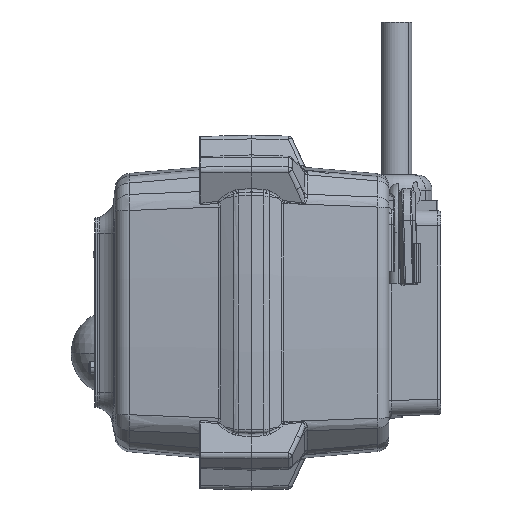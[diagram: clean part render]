
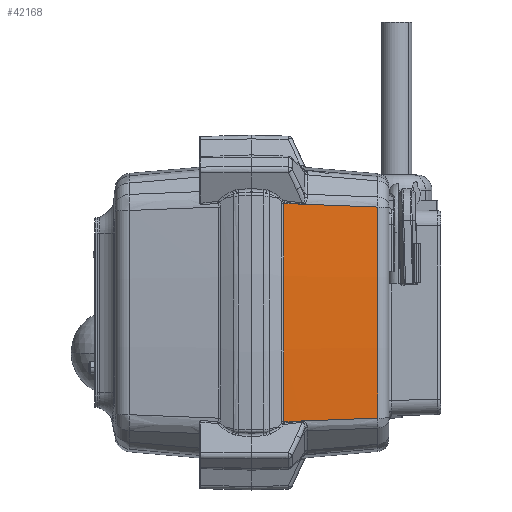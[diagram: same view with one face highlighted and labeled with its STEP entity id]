
A CAD part, left-side view. The second image highlights one B-rep face of the part: STEP entity #42168.
In plain terms, the highlighted conical face has half-angle 5 degrees and reference radius 722.5 mm.
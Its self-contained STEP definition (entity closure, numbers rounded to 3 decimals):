
#1148 = CARTESIAN_POINT ( 'NONE',  ( -62.691, -16.424, 35.453 ) ) ;
#1795 = ORIENTED_EDGE ( 'NONE', *, *, #79587, .T. ) ;
#3702 = CARTESIAN_POINT ( 'NONE',  ( -63.188, -10.631, 35.674 ) ) ;
#4025 = ORIENTED_EDGE ( 'NONE', *, *, #15791, .T. ) ;
#5742 = CARTESIAN_POINT ( 'NONE',  ( -62.691, -16.424, 35.453 ) ) ;
#5743 = CARTESIAN_POINT ( 'NONE',  ( -62.462, -19.095, -35.35 ) ) ;
#6007 = CARTESIAN_POINT ( 'NONE',  ( -62.658, -16.812, 35.438 ) ) ;
#6378 = DIRECTION ( 'NONE',  ( 0., -1., 0. ) ) ;
#7269 = CARTESIAN_POINT ( 'NONE',  ( -62.683, -16.523, 35.44 ) ) ;
#7319 = ORIENTED_EDGE ( 'NONE', *, *, #55672, .T. ) ;
#7385 = B_SPLINE_CURVE_WITH_KNOTS ( 'NONE', 3,
 ( #20020, #12725, #5743, #56842, #13029, #64201, #20341 ),
 .UNSPECIFIED., .F., .F.,
 ( 4, 3, 4 ),
 ( 0.007, 0.01, 0.031 ),
 .UNSPECIFIED. ) ;
#8156 = AXIS2_PLACEMENT_3D ( 'NONE', #14431, #21748, #58256 ) ;
#10373 = CIRCLE ( 'NONE', #48332, 718.882 ) ;
#12585 = CARTESIAN_POINT ( 'NONE',  ( -62.675, -16.619, -35.428 ) ) ;
#12725 = CARTESIAN_POINT ( 'NONE',  ( -62.56, -17.953, -35.394 ) ) ;
#13029 = CARTESIAN_POINT ( 'NONE',  ( -61.761, -27.273, -35.038 ) ) ;
#14431 = CARTESIAN_POINT ( 'NONE',  ( 657.5, 0., 0. ) ) ;
#15056 = CARTESIAN_POINT ( 'NONE',  ( -63.188, -10.631, -35.674 ) ) ;
#15791 = EDGE_CURVE ( 'NONE', #34181, #50122, #54063, .T. ) ;
#16857 = CARTESIAN_POINT ( 'NONE',  ( -62.683, -16.523, 35.44 ) ) ;
#17831 = VERTEX_POINT ( 'NONE', #47755 ) ;
#18381 = CARTESIAN_POINT ( 'NONE',  ( 657.5, -41.349, 0. ) ) ;
#19873 = CARTESIAN_POINT ( 'NONE',  ( -62.658, -16.812, -35.438 ) ) ;
#20020 = CARTESIAN_POINT ( 'NONE',  ( -62.658, -16.812, -35.438 ) ) ;
#20341 = CARTESIAN_POINT ( 'NONE',  ( -60.554, -41.349, -34.5 ) ) ;
#21748 = DIRECTION ( 'NONE',  ( 0., 1., 0. ) ) ;
#22345 = VERTEX_POINT ( 'NONE', #5742 ) ;
#24945 = CARTESIAN_POINT ( 'NONE',  ( -63.188, -10.631, 35.674 ) ) ;
#25080 = ORIENTED_EDGE ( 'NONE', *, *, #92672, .T. ) ;
#25717 = DIRECTION ( 'NONE',  ( 0., 0., -1. ) ) ;
#26339 = VERTEX_POINT ( 'NONE', #84894 ) ;
#26831 = B_SPLINE_CURVE_WITH_KNOTS ( 'NONE', 3,
 ( #76978, #84314, #40441, #91717 ),
 .UNSPECIFIED., .F., .F.,
 ( 4, 4 ),
 ( 0., 0.006 ),
 .UNSPECIFIED. ) ;
#28785 = EDGE_CURVE ( 'NONE', #22345, #80881, #47231, .T. ) ;
#30133 = CARTESIAN_POINT ( 'NONE',  ( -62.686, -16.49, 35.444 ) ) ;
#31423 = CARTESIAN_POINT ( 'NONE',  ( -62.688, -16.457, -35.448 ) ) ;
#32739 = EDGE_LOOP ( 'NONE', ( #7319, #25080, #48401, #43103, #67257, #68811, #1795, #66457, #85625, #4025 ) ) ;
#34181 = VERTEX_POINT ( 'NONE', #46790 ) ;
#36900 = CONICAL_SURFACE ( 'NONE', #8156, 722.5, 0.087 ) ;
#38480 = VERTEX_POINT ( 'NONE', #15056 ) ;
#40441 = CARTESIAN_POINT ( 'NONE',  ( -62.857, -14.493, -35.526 ) ) ;
#41841 = EDGE_CURVE ( 'NONE', #45499, #34181, #77626, .T. ) ;
#42168 = ADVANCED_FACE ( 'NONE', ( #78212 ), #36900, .T. ) ;
#42334 = CARTESIAN_POINT ( 'NONE',  ( -61.095, -35.044, 34.741 ) ) ;
#43103 = ORIENTED_EDGE ( 'NONE', *, *, #83491, .T. ) ;
#43602 = CARTESIAN_POINT ( 'NONE',  ( -62.658, -16.812, 35.438 ) ) ;
#44825 = CARTESIAN_POINT ( 'NONE',  ( -62.688, -16.457, 35.448 ) ) ;
#45499 = VERTEX_POINT ( 'NONE', #56427 ) ;
#45776 = B_SPLINE_CURVE_WITH_KNOTS ( 'NONE', 3,
 ( #43602, #58066, #50998, #7269 ),
 .UNSPECIFIED., .F., .F.,
 ( 4, 4 ),
 ( 0., 0. ),
 .UNSPECIFIED. ) ;
#46127 = CARTESIAN_POINT ( 'NONE',  ( -62.683, -16.522, -35.44 ) ) ;
#46790 = CARTESIAN_POINT ( 'NONE',  ( -62.683, -16.522, -35.44 ) ) ;
#47231 = B_SPLINE_CURVE_WITH_KNOTS ( 'NONE', 3,
 ( #90600, #83215, #68778, #24945 ),
 .UNSPECIFIED., .F., .F.,
 ( 4, 4 ),
 ( 0.029, 0.035 ),
 .UNSPECIFIED. ) ;
#47755 = CARTESIAN_POINT ( 'NONE',  ( -60.554, -41.349, 34.5 ) ) ;
#48332 = AXIS2_PLACEMENT_3D ( 'NONE', #18381, #69550, #25717 ) ;
#48401 = ORIENTED_EDGE ( 'NONE', *, *, #72390, .T. ) ;
#49643 = AXIS2_PLACEMENT_3D ( 'NONE', #50096, #6378, #57459 ) ;
#49714 = CARTESIAN_POINT ( 'NONE',  ( -62.137, -22.889, 35.205 ) ) ;
#50096 = CARTESIAN_POINT ( 'NONE',  ( 657.5, -10.631, 0. ) ) ;
#50122 = VERTEX_POINT ( 'NONE', #82808 ) ;
#50998 = CARTESIAN_POINT ( 'NONE',  ( -62.675, -16.619, 35.428 ) ) ;
#52782 = EDGE_CURVE ( 'NONE', #38480, #45499, #26831, .T. ) ;
#54063 = B_SPLINE_CURVE_WITH_KNOTS ( 'NONE', 3,
 ( #70784, #12585, #63725, #19873 ),
 .UNSPECIFIED., .F., .F.,
 ( 4, 4 ),
 ( 0., 0. ),
 .UNSPECIFIED. ) ;
#55479 = B_SPLINE_CURVE_WITH_KNOTS ( 'NONE', 3,
 ( #16857, #30133, #44825, #1148 ),
 .UNSPECIFIED., .F., .F.,
 ( 4, 4 ),
 ( 0., 0. ),
 .UNSPECIFIED. ) ;
#55672 = EDGE_CURVE ( 'NONE', #50122, #62088, #7385, .T. ) ;
#56350 = CARTESIAN_POINT ( 'NONE',  ( -60.554, -41.349, -34.5 ) ) ;
#56427 = CARTESIAN_POINT ( 'NONE',  ( -62.691, -16.424, -35.453 ) ) ;
#56779 = CARTESIAN_POINT ( 'NONE',  ( -60.554, -41.349, 34.5 ) ) ;
#56842 = CARTESIAN_POINT ( 'NONE',  ( -62.364, -20.236, -35.307 ) ) ;
#57459 = DIRECTION ( 'NONE',  ( 0., 0., -1. ) ) ;
#58066 = CARTESIAN_POINT ( 'NONE',  ( -62.667, -16.716, 35.426 ) ) ;
#58256 = DIRECTION ( 'NONE',  ( 0., 0., 1. ) ) ;
#62088 = VERTEX_POINT ( 'NONE', #56350 ) ;
#63725 = CARTESIAN_POINT ( 'NONE',  ( -62.667, -16.715, -35.426 ) ) ;
#64094 = B_SPLINE_CURVE_WITH_KNOTS ( 'NONE', 3,
 ( #56779, #64141, #86211, #42334, #93612, #49714, #6007 ),
 .UNSPECIFIED., .F., .F.,
 ( 4, 3, 4 ),
 ( 0.004, 0.01, 0.028 ),
 .UNSPECIFIED. ) ;
#64141 = CARTESIAN_POINT ( 'NONE',  ( -60.734, -39.247, 34.58 ) ) ;
#64201 = CARTESIAN_POINT ( 'NONE',  ( -61.158, -34.311, -34.769 ) ) ;
#66457 = ORIENTED_EDGE ( 'NONE', *, *, #52782, .T. ) ;
#67257 = ORIENTED_EDGE ( 'NONE', *, *, #76871, .T. ) ;
#67339 = CIRCLE ( 'NONE', #49643, 721.57 ) ;
#68778 = CARTESIAN_POINT ( 'NONE',  ( -63.022, -12.562, 35.6 ) ) ;
#68811 = ORIENTED_EDGE ( 'NONE', *, *, #28785, .T. ) ;
#69550 = DIRECTION ( 'NONE',  ( 0., 1., 0. ) ) ;
#70784 = CARTESIAN_POINT ( 'NONE',  ( -62.683, -16.522, -35.44 ) ) ;
#72301 = CARTESIAN_POINT ( 'NONE',  ( -62.683, -16.523, 35.44 ) ) ;
#72390 = EDGE_CURVE ( 'NONE', #17831, #26339, #64094, .T. ) ;
#76871 = EDGE_CURVE ( 'NONE', #80269, #22345, #55479, .T. ) ;
#76978 = CARTESIAN_POINT ( 'NONE',  ( -63.188, -10.631, -35.674 ) ) ;
#77626 = B_SPLINE_CURVE_WITH_KNOTS ( 'NONE', 3,
 ( #82620, #31423, #90001, #46127 ),
 .UNSPECIFIED., .F., .F.,
 ( 4, 4 ),
 ( 0., 0. ),
 .UNSPECIFIED. ) ;
#78212 = FACE_OUTER_BOUND ( 'NONE', #32739, .T. ) ;
#79587 = EDGE_CURVE ( 'NONE', #80881, #38480, #67339, .T. ) ;
#80269 = VERTEX_POINT ( 'NONE', #72301 ) ;
#80881 = VERTEX_POINT ( 'NONE', #3702 ) ;
#82620 = CARTESIAN_POINT ( 'NONE',  ( -62.691, -16.424, -35.453 ) ) ;
#82808 = CARTESIAN_POINT ( 'NONE',  ( -62.658, -16.812, -35.438 ) ) ;
#83215 = CARTESIAN_POINT ( 'NONE',  ( -62.857, -14.493, 35.526 ) ) ;
#83491 = EDGE_CURVE ( 'NONE', #26339, #80269, #45776, .T. ) ;
#84314 = CARTESIAN_POINT ( 'NONE',  ( -63.022, -12.562, -35.6 ) ) ;
#84894 = CARTESIAN_POINT ( 'NONE',  ( -62.658, -16.812, 35.438 ) ) ;
#85625 = ORIENTED_EDGE ( 'NONE', *, *, #41841, .T. ) ;
#86211 = CARTESIAN_POINT ( 'NONE',  ( -60.915, -37.145, 34.661 ) ) ;
#90001 = CARTESIAN_POINT ( 'NONE',  ( -62.686, -16.49, -35.444 ) ) ;
#90600 = CARTESIAN_POINT ( 'NONE',  ( -62.691, -16.424, 35.453 ) ) ;
#91717 = CARTESIAN_POINT ( 'NONE',  ( -62.691, -16.424, -35.453 ) ) ;
#92672 = EDGE_CURVE ( 'NONE', #62088, #17831, #10373, .T. ) ;
#93612 = CARTESIAN_POINT ( 'NONE',  ( -61.616, -28.967, 34.973 ) ) ;
